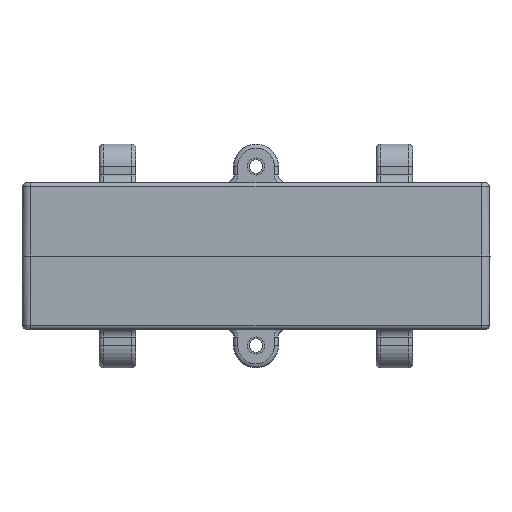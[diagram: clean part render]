
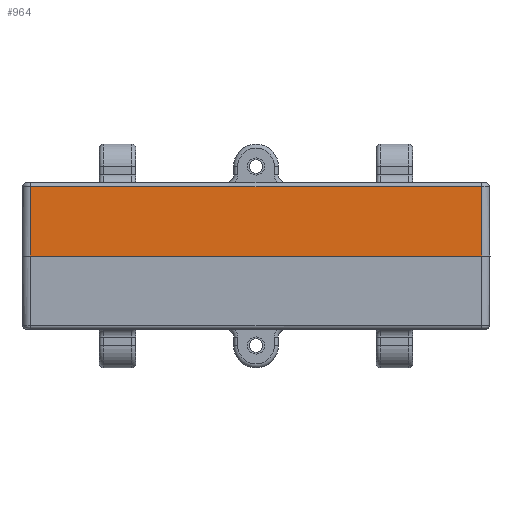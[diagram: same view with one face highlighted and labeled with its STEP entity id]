
A CAD part, front view. The second image highlights one B-rep face of the part: STEP entity #964.
In plain terms, the highlighted planar face has unit normal (0, -1, 0.009).
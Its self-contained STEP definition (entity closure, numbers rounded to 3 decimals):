
#964=ADVANCED_FACE('',(#1806),#1505,.T.);
#1505=PLANE('',#9480);
#1806=FACE_OUTER_BOUND('',#2298,.T.);
#2298=EDGE_LOOP('',(#3195,#3196,#3197,#3198));
#3195=ORIENTED_EDGE('',*,*,#6691,.F.);
#3196=ORIENTED_EDGE('',*,*,#6692,.F.);
#3197=ORIENTED_EDGE('',*,*,#6624,.T.);
#3198=ORIENTED_EDGE('',*,*,#6693,.F.);
#5763=VERTEX_POINT('',#13539);
#5764=VERTEX_POINT('',#13541);
#5827=VERTEX_POINT('',#13679);
#5828=VERTEX_POINT('',#13680);
#6624=EDGE_CURVE('',#5764,#5763,#7893,.T.);
#6691=EDGE_CURVE('',#5827,#5828,#7953,.T.);
#6692=EDGE_CURVE('',#5764,#5827,#7954,.T.);
#6693=EDGE_CURVE('',#5828,#5763,#7955,.T.);
#7893=LINE('',#13540,#8737);
#7953=LINE('',#13678,#8797);
#7954=LINE('',#13681,#8798);
#7955=LINE('',#13682,#8799);
#8737=VECTOR('',#10499,1.);
#8797=VECTOR('',#10573,1.);
#8798=VECTOR('',#10574,1.);
#8799=VECTOR('',#10575,1.);
#9480=AXIS2_PLACEMENT_3D('',#13683,#10576,#10577);
#10499=DIRECTION('',(1.,0.,0.));
#10573=DIRECTION('',(1.,0.,0.));
#10574=DIRECTION('',(0.009,0.009,1.));
#10575=DIRECTION('',(0.009,-0.009,-1.));
#10576=DIRECTION('',(0.,-1.,0.009));
#10577=DIRECTION('',(0.,-0.009,-1.));
#13539=CARTESIAN_POINT('',(55.5,6.491,-18.));
#13540=CARTESIAN_POINT('',(40.352,6.491,-18.));
#13541=CARTESIAN_POINT('',(-55.5,6.491,-18.));
#13678=CARTESIAN_POINT('',(-41.491,6.639,-0.991));
#13679=CARTESIAN_POINT('',(-55.352,6.639,-0.991));
#13680=CARTESIAN_POINT('',(55.352,6.639,-0.991));
#13681=CARTESIAN_POINT('',(-55.494,6.497,-17.285));
#13682=CARTESIAN_POINT('',(55.494,6.497,-17.285));
#13683=CARTESIAN_POINT('',(40.352,6.491,-18.));
